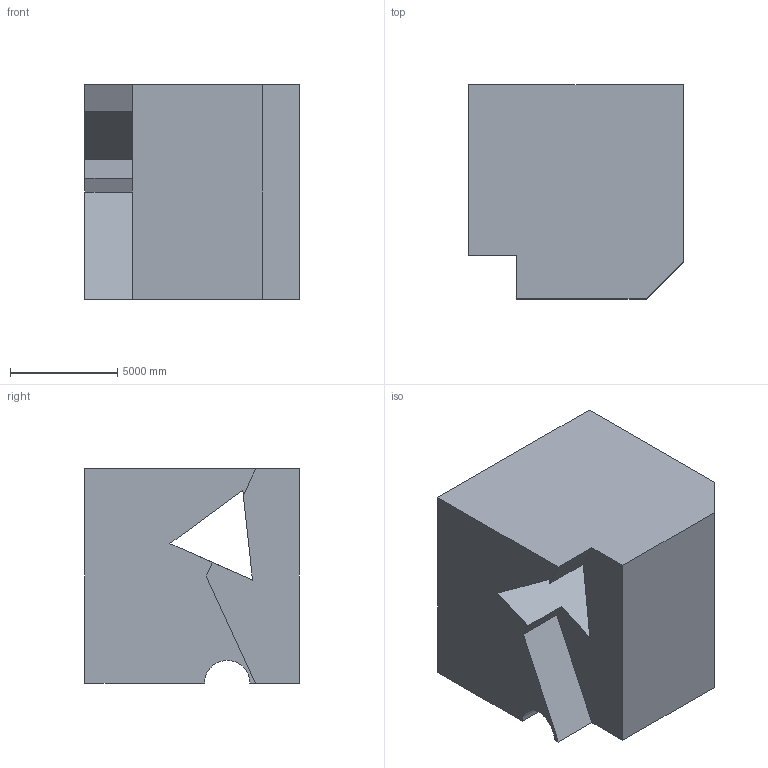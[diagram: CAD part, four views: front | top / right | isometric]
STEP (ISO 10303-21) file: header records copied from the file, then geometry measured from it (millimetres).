
FILE_DESCRIPTION (( 'STEP AP203' ), '1' );
FILE_NAME ('1335.STEP', '2022-08-18T13:50:15', ( 'user' ), ( '' ), 'SwSTEP 2.0', 'SolidWorks 2021', '' );
FILE_SCHEMA (( 'CONFIG_CONTROL_DESIGN' ));
Length unit declared in the file: centimetre
Products named in the file (1): 1335
Bounding box: 10000 x 10000 x 10000 mm (x, y, z)
Volume: 827620610297 mm3; surface area: 678757231.5 mm2
Topology: 1 solids, 1 shells, 17 faces, 48 edges, 32 vertices
Faces by surface type: plane 15, cylinder 2
Entity records: 627 total; most frequent: CARTESIAN_POINT 98, ORIENTED_EDGE 96, DIRECTION 88, EDGE_CURVE 48, VECTOR 44, LINE 44, VERTEX_POINT 32, AXIS2_PLACEMENT_3D 22
